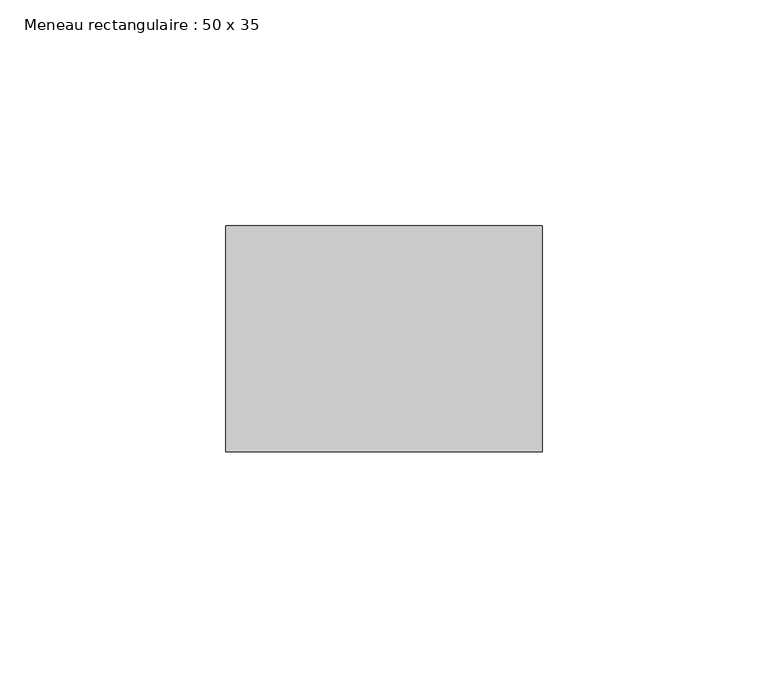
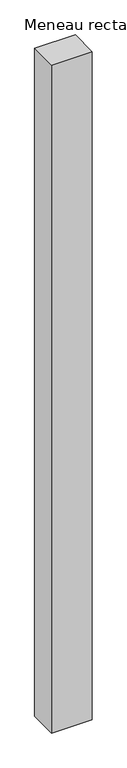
"""IFC4 building model written with IfcOpenShell, lengths in millimetres: member geometry, Meneau rectangulaire : 50 x 35."""

import ifcopenshell
import ifcopenshell.guid

model = None  # the IFC model being written
_history = None  # IfcOwnerHistory: only IFC2X3 demands one
_inside = {}  # id of a spatial element -> (the spatial element, [elements in it])
_under = {}  # id of a project, library or spatial element -> (it, [spatial elements below it])
_declared = {}  # id of a project -> (the project, [libraries it declares])
_typed = {}  # id of a type object -> (the type object, [elements of that type])
_made_of = {}  # id of a material, layer set ... -> (it, [elements and type objects made of it])


def new_model(schema):
    """Start an empty IFC model of exactly this schema.

    Asked for "IFC4X3", IfcOpenShell would pick the latest addendum, in which some entities
    have other attributes; the version numbers below select the first issue.
    IFC2X3 requires an IfcOwnerHistory on every rooted entity: one is made here for all.
    """
    global model, _history
    if schema == "IFC4X3":
        model = ifcopenshell.file(schema_version=(4, 3, 0, 0))
    else:
        model = ifcopenshell.file(schema=schema)
    _inside.clear()
    _under.clear()
    _declared.clear()
    _typed.clear()
    _made_of.clear()
    _history = None
    if model.schema == "IFC2X3":
        org = make("IfcOrganization", Name="unknown")
        user = make(
            "IfcPersonAndOrganization",
            ThePerson=make("IfcPerson", FamilyName="unknown"),
            TheOrganization=org,
        )
        app = make(
            "IfcApplication",
            ApplicationDeveloper=org,
            Version="unknown",
            ApplicationFullName="unknown",
            ApplicationIdentifier="unknown",
        )
        _history = make(
            "IfcOwnerHistory",
            OwningUser=user,
            OwningApplication=app,
            ChangeAction="ADDED",
            CreationDate=0,
        )
    return model


def make(cls, **values):
    """One entity of the class cls with the attributes given. An attribute that is None is left unset."""
    return model.create_entity(
        cls, **{name: value for name, value in values.items() if value is not None}
    )


def rooted(cls, **values):
    """An entity with a GlobalId (a new one), such as an element, a storey or a relation."""
    return make(cls, GlobalId=ifcopenshell.guid.new(), OwnerHistory=_history, **values)


def si_unit(unit_type, name, prefix=None):
    """IfcSIUnit, for example si_unit("LENGTHUNIT", "METRE", prefix="MILLI")."""
    return make("IfcSIUnit", UnitType=unit_type, Prefix=prefix, Name=name)


def assignment(units):
    """IfcUnitAssignment: the units of a project."""
    return None if units is None else make("IfcUnitAssignment", Units=units)


def point(xyz):
    """IfcCartesianPoint."""
    return None if xyz is None else make("IfcCartesianPoint", Coordinates=xyz)


def direction(xyz):
    """IfcDirection."""
    return None if xyz is None else make("IfcDirection", DirectionRatios=xyz)


def frame(location, z_axis=None, x_axis=None):
    """IfcAxis2Placement3D, a coordinate frame: its origin and axes. An axis left out is left unset."""
    return make(
        "IfcAxis2Placement3D",
        Location=point(location),
        Axis=direction(z_axis),
        RefDirection=direction(x_axis),
    )


def origin():
    """The frame at (0, 0, 0) with its axes left unset."""
    return frame((0.0, 0.0, 0.0))


def place(relative_to, where):
    """IfcLocalPlacement: puts the frame where relative to a parent placement (None: the world)."""
    return make(
        "IfcLocalPlacement", PlacementRelTo=relative_to, RelativePlacement=where
    )


def context(
    kind, dimensions, precision=None, world=None, true_north=None, identifier=None
):
    """IfcGeometricRepresentationContext, for example the 3D "Model" context."""
    return make(
        "IfcGeometricRepresentationContext",
        ContextIdentifier=identifier,
        ContextType=kind,
        CoordinateSpaceDimension=dimensions,
        Precision=precision,
        WorldCoordinateSystem=world,
        TrueNorth=true_north,
    )


def project(units=None, contexts=None):
    """IfcProject with its units and contexts."""
    return rooted(
        "IfcProject",
        Name="project",
        RepresentationContexts=contexts,
        UnitsInContext=assignment(units),
    )


def spatial(cls, under=None, at=None, **own):
    """A site, building, storey or space (cls), placed at a placement, below another one or the project."""
    s = rooted(cls, ObjectPlacement=at, **own)
    if under is not None:
        _under.setdefault(under.id(), (under, []))[1].append(s)
    return s


def polyline(points):
    """IfcPolyline through the points."""
    return make("IfcPolyline", Points=[point(p) for p in points])


def outline(outer, holes=None, kind="AREA"):
    """IfcArbitraryClosedProfileDef: a profile drawn as a closed curve; with holes, ...WithVoids."""
    if holes is None:
        return make("IfcArbitraryClosedProfileDef", ProfileType=kind, OuterCurve=outer)
    return make(
        "IfcArbitraryProfileDefWithVoids",
        ProfileType=kind,
        OuterCurve=outer,
        InnerCurves=holes,
    )


def extrude(swept, where, along, depth):
    """IfcExtrudedAreaSolid: the profile swept, set in the frame where, extruded along a direction by depth."""
    return make(
        "IfcExtrudedAreaSolid",
        SweptArea=swept,
        Position=where,
        ExtrudedDirection=direction(along),
        Depth=depth,
    )


def shape(context_of_items, identifier, shape_type, items):
    """IfcShapeRepresentation: the items that make up one representation, for example the "Body"."""
    return make(
        "IfcShapeRepresentation",
        ContextOfItems=context_of_items,
        RepresentationIdentifier=identifier,
        RepresentationType=shape_type,
        Items=items,
    )


def source(mapping_origin, context_of_items, identifier, shape_type, items):
    """IfcRepresentationMap: a shape defined once, which mapped items show again and again."""
    return make(
        "IfcRepresentationMap",
        MappingOrigin=mapping_origin,
        MappedRepresentation=shape(context_of_items, identifier, shape_type, items),
    )


def transform(
    local_origin,
    x_axis=None,
    y_axis=None,
    z_axis=None,
    scale=None,
    scale2=None,
    scale3=None,
    uniform=True,
):
    """IfcCartesianTransformationOperator3D, or its non-uniform kind. x_axis, y_axis, z_axis: its Axis1, 2, 3."""
    if uniform:
        return make(
            "IfcCartesianTransformationOperator3D",
            Axis1=direction(x_axis),
            Axis2=direction(y_axis),
            LocalOrigin=point(local_origin),
            Scale=scale,
            Axis3=direction(z_axis),
        )
    return make(
        "IfcCartesianTransformationOperator3DnonUniform",
        Axis1=direction(x_axis),
        Axis2=direction(y_axis),
        LocalOrigin=point(local_origin),
        Scale=scale,
        Axis3=direction(z_axis),
        Scale2=scale2,
        Scale3=scale3,
    )


def mapped(mapping_source, mapping_target):
    """IfcMappedItem: shows the shape of a source again, moved by a transform."""
    return make(
        "IfcMappedItem", MappingSource=mapping_source, MappingTarget=mapping_target
    )


def made_of(thing, what):
    """Note that an element or type object is made of a material, layer set ...; save() writes the relation."""
    if what is not None:
        _made_of.setdefault(what.id(), (what, []))[1].append(thing)
    return thing


def element(
    cls,
    number,
    at=None,
    inside=None,
    cuts=None,
    type_object=None,
    material=None,
    context=None,
    identifier="Body",
    shape_type=None,
    held_by="IfcProductDefinitionShape",
    body=None,
    shapes=None,
    **own,
):
    """One element of the class cls, such as IfcWall. Its Tag is "e" and its number.

    at: its placement. inside: the storey or other place that contains it. cuts: it is an
    opening in that element (IfcRelVoidsElement). A single representation is given by context,
    identifier, shape_type and body (its items); several are given by shapes. held_by: the class
    of the entity that holds the representations. save() writes the other relations.
    """
    e = rooted(cls, Tag="e%d" % number, ObjectPlacement=at, **own)
    if body is not None:
        shapes = [shape(context, identifier, shape_type, body)]
    if shapes is not None:
        e.Representation = make(held_by, Representations=shapes)
    if inside is not None:
        _inside.setdefault(inside.id(), (inside, []))[1].append(e)
    if cuts is not None:
        rooted(
            "IfcRelVoidsElement", RelatingBuildingElement=cuts, RelatedOpeningElement=e
        )
    if type_object is not None:
        _typed.setdefault(type_object.id(), (type_object, []))[1].append(e)
    return made_of(e, material)


def aggregate(whole, parts):
    """IfcRelAggregates: a whole, such as a stair, and the parts it consists of."""
    return rooted("IfcRelAggregates", RelatingObject=whole, RelatedObjects=parts)


def save(model, path):
    """Write the relations noted so far, then the file.

    IfcRelAggregates (storeys below a building ...), IfcRelContainedInSpatialStructure (elements
    in a storey), IfcRelDefinesByType, IfcRelAssociatesMaterial and IfcRelDeclares: one each for
    every whole, place, type object, material and project.
    """
    for whole, parts in _under.values():
        aggregate(whole, parts)
    for where, things in _inside.values():
        rooted(
            "IfcRelContainedInSpatialStructure",
            RelatedElements=things,
            RelatingStructure=where,
        )
    for kind, things in _typed.values():
        rooted("IfcRelDefinesByType", RelatedObjects=things, RelatingType=kind)
    for what, things in _made_of.values():
        rooted("IfcRelAssociatesMaterial", RelatedObjects=things, RelatingMaterial=what)
    for by, libraries in _declared.values():
        rooted("IfcRelDeclares", RelatingContext=by, RelatedDefinitions=libraries)
    model.write(path)


def meneau_rectangulaire_50_x_35_bf47f044(model_context):
    return source(origin(), model_context, "Body", "SweptSolid", [
        extrude(outline(polyline([(0.0, 0.0), (0.0, -50.0), (-70.0, -50.0), (-70.0, 0.0), (0.0, 0.0)])), frame((0.0, 0.0, -1217.2754407), z_axis=(0.0, 0.0, 1.0), x_axis=(1.0, 0.0, 0.0)), (0.0, 0.0, 1.0), 1217.2754407),
    ])


if __name__ == "__main__":
    model = new_model("IFC4")
    model_context = context("Model", 3, world=origin())
    ifc_project = project(units=[si_unit("LENGTHUNIT", "METRE", prefix="MILLI")], contexts=[model_context])
    site = spatial("IfcSite", under=ifc_project)
    building = spatial("IfcBuilding", under=site)
    placement = place(None, origin())
    meneau_rectangulaire_50_x_35_shape = meneau_rectangulaire_50_x_35_bf47f044(model_context)
    element("IfcMember", 1, ObjectType="Meneau rectangulaire : 50 x 35", at=placement, inside=building, context=model_context, shape_type="MappedRepresentation", body=[
        mapped(meneau_rectangulaire_50_x_35_shape, transform((0.0, 0.0, 0.0), x_axis=(1.0, 0.0, 0.0), y_axis=(0.0, 1.0, 0.0), z_axis=(0.0, 0.0, 1.0))),
    ])
    save(model, "model.ifc")
